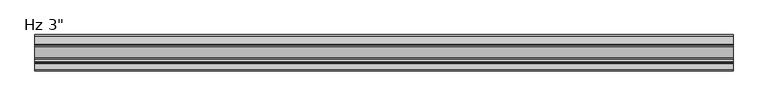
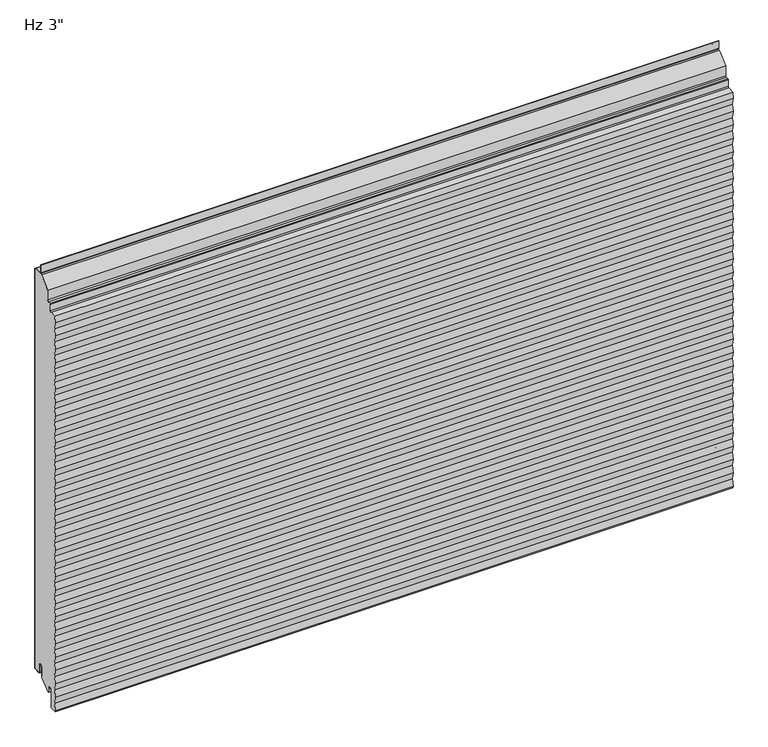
"""IFC4 building model written with IfcOpenShell, lengths in millimetres: plate geometry."""

from ifc_helpers import new_model, si_unit, point, frame, frame_2d, origin, place, context, project, spatial, polyline, circle_curve, trimmed, segment, composite_curve, outline, extrude, source, transform, mapped, element, save


def plate_b1f4f1eb(model_context):
    return source(origin(), model_context, "Body", "SweptSolid", [
        extrude(outline(composite_curve([segment(trimmed(circle_curve(frame_2d((-21.43125, 19.05)), 4.96875), [point((-16.4625, 19.05))], [point((-26.4, 19.05))], True, "CARTESIAN"), True, "CONTINUOUS"), segment(polyline([(-26.4, 19.05), (-26.4, -3.1323422), (-49.2157227, -23.01875), (-50.8, -23.01875), (-50.8, -13.5080174), (-51.59375, -13.5080174), (-51.3875, -11.9205174)]), True, "CONTINUOUS"), segment(trimmed(circle_curve(frame_2d((-56.35625, -11.9205174)), 4.96875), [point((-51.3875, -11.9205174))], [point((-61.325, -11.9205174))], True, "CARTESIAN"), True, "CONTINUOUS"), segment(polyline([(-61.325, -11.9205174), (-61.325, -50.1038221)]), True, "CONTINUOUS"), segment(trimmed(circle_curve(frame_2d((-62.70625, -50.1038221)), 1.38125), [point((-61.325, -50.1038221))], [point((-62.633961, -51.4831791))], False, "CARTESIAN"), True, "CONTINUOUS"), segment(polyline([(-62.633961, -51.4831791), (-75.8062471, -52.1735094), (-76.3378194, -48.8511825), (-73.8994194, -33.6111825), (-76.3378194, -18.3711825), (-73.8994194, -3.1311825), (-76.3378194, 12.1088175), (-73.8994194, 27.3488175), (-76.3378194, 42.5888175), (-73.8994194, 57.8288175), (-76.3378194, 73.0688175), (-73.8994194, 88.3088175), (-76.3378194, 103.5488175), (-73.8994194, 118.7888175), (-76.3378194, 134.0288175), (-73.8994194, 149.2688175), (-76.3378194, 164.5088175), (-73.8994194, 179.7488175), (-76.3378194, 194.9888175), (-73.8994194, 210.2288175), (-76.3378194, 225.4688175), (-73.8994194, 240.7088175), (-76.3378194, 255.9488175), (-73.8994194, 271.1888175), (-76.3378194, 286.4288175), (-73.8994194, 301.6688175), (-76.3378194, 316.9088175), (-73.8994194, 332.1488175), (-76.3378194, 347.3888175), (-73.8994194, 362.6288175), (-76.3378194, 377.8688175), (-73.8994194, 393.1088175), (-76.3378194, 408.3488175), (-73.8994194, 423.5888175), (-76.3378194, 438.8288175), (-73.8994194, 454.0688175), (-76.3378194, 469.3088175), (-73.8994194, 484.5488175), (-76.3378194, 499.7888175), (-73.8994194, 515.0288175), (-76.3378194, 530.2688175), (-73.8994194, 545.5088175), (-76.3378194, 560.7488175), (-73.8994194, 575.9888175), (-76.3378194, 591.2288175), (-73.8994194, 606.4688175), (-76.3378194, 621.7088175), (-73.8994194, 636.9488175), (-76.3378194, 652.1888175), (-73.8994194, 667.4288175), (-76.3378194, 682.6688175), (-73.8994194, 697.9088175), (-76.3378194, 713.1488175), (-73.8994194, 728.3888175), (-76.3378194, 743.6288175), (-73.8994194, 758.8688175), (-76.3378194, 774.1088175), (-73.8994194, 789.3488175), (-76.3378194, 804.5888175), (-73.8994194, 819.8288175), (-76.3054086, 834.86625), (-74.2673048, 847.6043985), (-60.1895807, 848.3421807)]), True, "CONTINUOUS"), segment(trimmed(circle_curve(frame_2d((-60.325, 850.9261347)), 2.5875), [point((-60.1895807, 848.3421807))], [point((-57.7375, 850.9261347))], True, "CARTESIAN"), True, "CONTINUOUS"), segment(polyline([(-57.7375, 850.9261347), (-57.7375, 865.0824411)]), True, "CONTINUOUS"), segment(trimmed(circle_curve(frame_2d((-56.35625, 865.0824411)), 1.38125), [point((-57.7375, 865.0824411))], [point((-56.428539, 866.4617981))], False, "CARTESIAN"), True, "CONTINUOUS"), segment(polyline([(-56.428539, 866.4617981), (-50.6645807, 866.7638744)]), True, "CONTINUOUS"), segment(trimmed(circle_curve(frame_2d((-50.8, 869.3478283)), 2.5875), [point((-50.6645807, 866.7638744))], [point((-48.2125, 869.3478283))], True, "CARTESIAN"), True, "CONTINUOUS"), segment(polyline([(-48.2125, 869.3478283), (-48.2125, 891.7892934), (-24.9057308, 912.60625), (-2.38125, 912.60625)]), True, "CONTINUOUS"), segment(trimmed(circle_curve(frame_2d((-2.38125, 911.225)), 1.38125), [point((-2.38125, 912.60625))], [point((-1.0, 911.225))], False, "CARTESIAN"), True, "CONTINUOUS"), segment(polyline([(-1.0, 911.225), (-1.0, 3.175)]), True, "CONTINUOUS"), segment(trimmed(circle_curve(frame_2d((-2.38125, 3.175)), 1.38125), [point((-1.0, 3.175))], [point((-2.38125, 1.79375))], False, "CARTESIAN"), True, "CONTINUOUS"), segment(polyline([(-2.38125, 1.79375), (-15.08125, 1.79375)]), True, "CONTINUOUS"), segment(trimmed(circle_curve(frame_2d((-15.08125, 3.175)), 1.38125), [point((-15.08125, 1.79375))], [point((-16.4625, 3.175))], False, "CARTESIAN"), True, "CONTINUOUS"), segment(polyline([(-16.4625, 3.175), (-16.4625, 19.05)]), True, "CONTINUOUS")], self_intersect=False)), frame((-730.0, 0.0, 0.0), z_axis=(1.0, 0.0, 0.0), x_axis=(0.0, 1.0, 0.0)), (0.0, 0.0, 1.0), 1460.0),
        extrude(outline(composite_curve([segment(polyline([(-25.4, 0.79375), (-26.4, 0.79375), (-26.4, 19.05)]), True, "CONTINUOUS"), segment(trimmed(circle_curve(frame_2d((-21.43125, 19.05)), 4.96875), [point((-26.4, 19.05))], [point((-16.4625, 19.05))], False, "CARTESIAN"), True, "CONTINUOUS"), segment(polyline([(-16.4625, 19.05), (-16.4625, 3.175)]), True, "CONTINUOUS"), segment(trimmed(circle_curve(frame_2d((-15.08125, 3.175)), 1.38125), [point((-16.4625, 3.175))], [point((-15.08125, 1.79375))], True, "CARTESIAN"), True, "CONTINUOUS"), segment(polyline([(-15.08125, 1.79375), (-2.38125, 1.79375)]), True, "CONTINUOUS"), segment(trimmed(circle_curve(frame_2d((-2.38125, 3.175)), 1.38125), [point((-2.38125, 1.79375))], [point((-1.0, 3.175))], True, "CARTESIAN"), True, "CONTINUOUS"), segment(polyline([(-1.0, 3.175), (-1.0, 911.225)]), True, "CONTINUOUS"), segment(trimmed(circle_curve(frame_2d((-2.38125, 911.225)), 1.38125), [point((-1.0, 911.225))], [point((-2.38125, 912.60625))], True, "CARTESIAN"), True, "CONTINUOUS"), segment(polyline([(-2.38125, 912.60625), (-19.446875, 912.60625)]), True, "CONTINUOUS"), segment(trimmed(circle_curve(frame_2d((-19.446875, 915.19375)), 2.5875), [point((-19.446875, 912.60625))], [point((-22.034375, 915.19375))], False, "CARTESIAN"), True, "CONTINUOUS"), segment(polyline([(-22.034375, 915.19375), (-22.034375, 932.65625), (-21.034375, 932.65625), (-21.034375, 915.19375)]), True, "CONTINUOUS"), segment(trimmed(circle_curve(frame_2d((-19.446875, 915.19375)), 1.5875), [point((-21.034375, 915.19375))], [point((-19.446875, 913.60625))], True, "CARTESIAN"), True, "CONTINUOUS"), segment(polyline([(-19.446875, 913.60625), (-2.38125, 913.60625)]), True, "CONTINUOUS"), segment(trimmed(circle_curve(frame_2d((-2.38125, 911.225)), 2.38125), [point((-2.38125, 913.60625))], [point((0.0, 911.225))], False, "CARTESIAN"), True, "CONTINUOUS"), segment(polyline([(0.0, 911.225), (0.0, 3.175)]), True, "CONTINUOUS"), segment(trimmed(circle_curve(frame_2d((-2.38125, 3.175)), 2.38125), [point((0.0, 3.175))], [point((-2.38125, 0.79375))], False, "CARTESIAN"), True, "CONTINUOUS"), segment(polyline([(-2.38125, 0.79375), (-15.08125, 0.79375)]), True, "CONTINUOUS"), segment(trimmed(circle_curve(frame_2d((-15.08125, 3.175)), 2.38125), [point((-15.08125, 0.79375))], [point((-17.4625, 3.175))], False, "CARTESIAN"), True, "CONTINUOUS"), segment(polyline([(-17.4625, 3.175), (-17.4625, 19.05)]), True, "CONTINUOUS"), segment(trimmed(circle_curve(frame_2d((-21.43125, 19.05)), 3.96875), [point((-17.4625, 19.05))], [point((-25.4, 19.05))], True, "CARTESIAN"), True, "CONTINUOUS"), segment(polyline([(-25.4, 19.05), (-25.4, 0.79375)]), True, "CONTINUOUS")], self_intersect=False)), frame((-730.0, 0.0, 0.0), z_axis=(1.0, 0.0, 0.0), x_axis=(0.0, 1.0, 0.0)), (0.0, 0.0, 1.0), 1460.0),
    ])


if __name__ == "__main__":
    model = new_model("IFC4")
    model_context = context("Model", 3, world=origin())
    ifc_project = project(units=[si_unit("LENGTHUNIT", "METRE", prefix="MILLI")], contexts=[model_context])
    site = spatial("IfcSite", under=ifc_project)
    building = spatial("IfcBuilding", under=site)
    placement = place(None, origin())
    plate_shape = plate_b1f4f1eb(model_context)
    element("IfcPlate", 1, ObjectType="KIP-36-DWHR-R19-CP-Hz-S : Hz 3\"", at=placement, inside=building, context=model_context, shape_type="MappedRepresentation", body=[
        mapped(plate_shape, transform((0.0, 0.0, 0.0), x_axis=(1.0, 0.0, 0.0), y_axis=(0.0, 1.0, 0.0), z_axis=(0.0, 0.0, 1.0))),
    ])
    save(model, "model.ifc")
